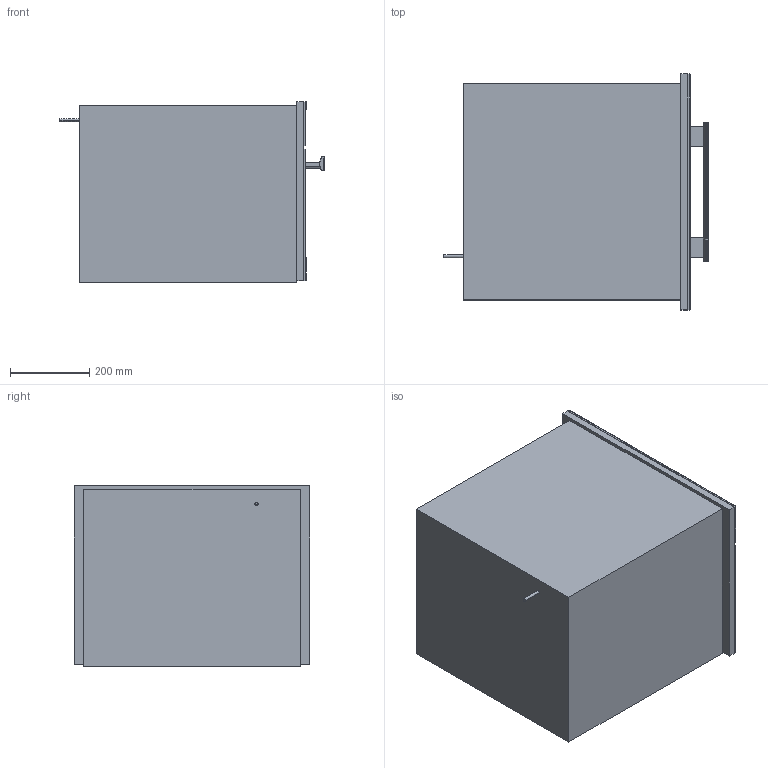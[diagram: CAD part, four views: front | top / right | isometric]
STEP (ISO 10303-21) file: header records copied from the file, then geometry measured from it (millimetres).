
FILE_DESCRIPTION(/* description */ (''),/* implementation_level */ '2;1');
FILE_NAME(/* name */ 'DGC6805_CLST',/* time_stamp */ '2013-03-11T12:10:46+01:00',/* author */ (''),/* organization */ (''),/* preprocessor_version */ 'ST-DEVELOPER v10',/* originating_system */ '',/* authorisation */ '');
FILE_SCHEMA (('AUTOMOTIVE_DESIGN_CC2'));
Length unit declared in the file: millimetre
Products named in the file (1): 1
Bounding box: 666.55 x 595 x 455.51 mm (x, y, z)
Volume: 87110637.2 mm3; surface area: 3775758.4 mm2
Topology: 47 solids, 48 shells, 275 faces, 514 edges, 324 vertices
Faces by surface type: bspline 275
Entity records: 13973 total; most frequent: CARTESIAN_POINT 10467, ORIENTED_EDGE 992, EDGE_CURVE 502, VERTEX_POINT 324, EDGE_LOOP 279, ADVANCED_FACE 275, FACE_OUTER_BOUND 275, B_SPLINE_CURVE_WITH_KNOTS 194
